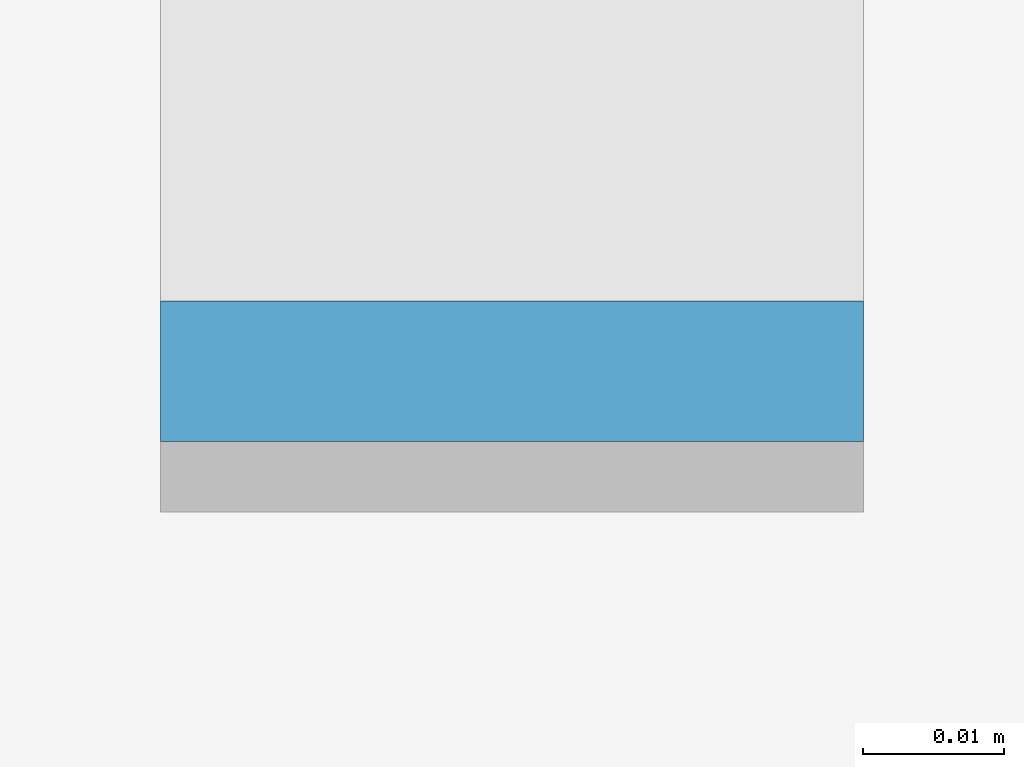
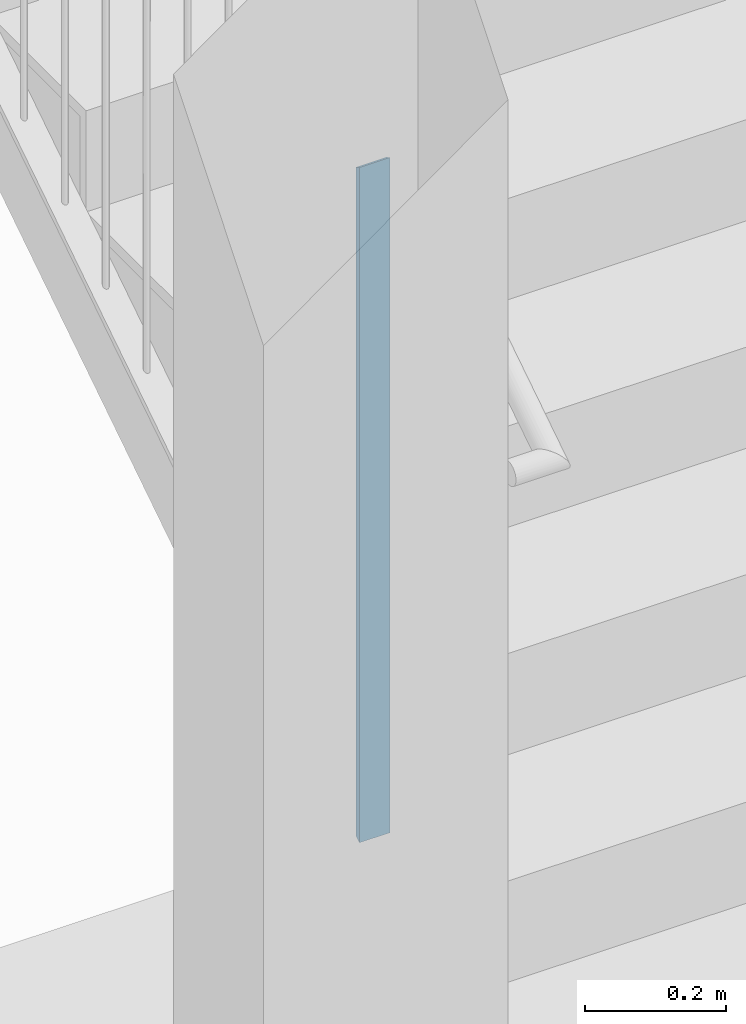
# One storey, part 8 of 296: 1 column.
"""IFC2X3 building model written with IfcOpenShell, lengths in millimetres."""

from ifc_helpers import new_model, entity, si_unit, converted_unit, frame, origin, origin_with_axes, origin_2d, place, context, project, spatial, rectangle, extrude, clip, halfspace, material, element, save


model = new_model("IFC2X3")

# Units and contexts
model_context = context("Model", 3, precision=1e-09, world=origin_with_axes())
ifc_project = project(units=[si_unit("LENGTHUNIT", "METRE", prefix="MILLI"), si_unit("AREAUNIT", "SQUARE_METRE"), si_unit("VOLUMEUNIT", "CUBIC_METRE"), converted_unit("PLANEANGLEUNIT", "DEGREE", entity("IfcPlaneAngleMeasure", 0.01745329), si_unit("PLANEANGLEUNIT", "RADIAN"), dimensions=[0, 0, 0, 0, 0, 0, 0])], contexts=[model_context])

# Site, building, storey
site_placement = place(None, origin_with_axes())
site = spatial("IfcSite", under=ifc_project, at=site_placement, Name="TZD-S?d | Treppenhausgel?nder", CompositionType="ELEMENT")
building_placement = place(site_placement, origin_with_axes())
building = spatial("IfcBuilding", under=site, at=building_placement, Name="Struktur 1", CompositionType="ELEMENT")
storey_placement = place(building_placement, origin_with_axes())
storey = spatial("IfcBuildingStorey", under=building, at=storey_placement, Name="Default Storey", CompositionType="ELEMENT", Elevation=0.0)

# Column
ifc_material = material(Name="S235JR")
column_placement = place(None, frame((-45.0, -3725.0, 10145.838195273), z_axis=(0.0, 0.0, 1.0), x_axis=(0.0, 1.0, 0.0)))
element("IfcColumn", 1, at=column_placement, inside=storey, material=ifc_material, Name="-", ObjectType="-", context=model_context, shape_type="Clipping", body=[
    clip(clip(extrude(rectangle(XDim=10.0, YDim=50.0, at=origin_2d()), origin(), (0.0, 0.0, 1.0), 1227.998777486), halfspace(frame((-2020.673802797, -45.0, -1271.422269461), z_axis=(-0.543478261, 0.0, 0.839423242), x_axis=(0.0, -1.0, 0.0)), True)), halfspace(frame((7636.278633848, -45.0, -2954.026915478), z_axis=(-0.477766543, 0.0, -0.878486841), x_axis=(0.0, -1.0, 0.0)), True)),
])

save(model, "model.ifc")
